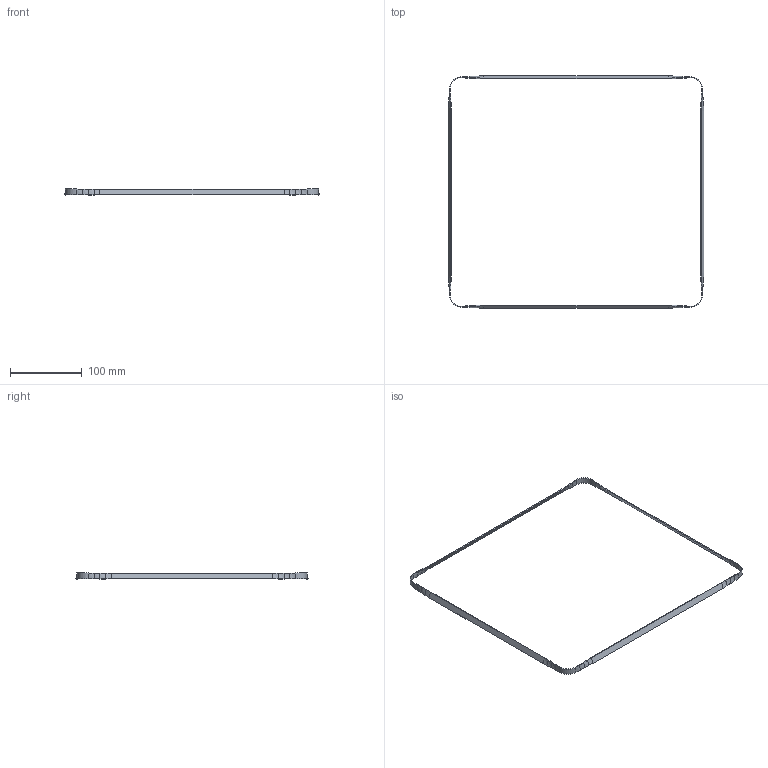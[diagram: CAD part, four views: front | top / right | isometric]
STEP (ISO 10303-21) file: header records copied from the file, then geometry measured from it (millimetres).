
FILE_DESCRIPTION(('Open CASCADE Model'),'2;1');
FILE_NAME('Open CASCADE Shape Model','2026-10-21T18:40:55',('Author'),( 'Open CASCADE'),'Open CASCADE STEP processor 8.0','build123d', 'Unknown');
FILE_SCHEMA(('AUTOMOTIVE_DESIGN { 1 0 10303 214 1 1 1 1 }'));
Length unit declared in the file: millimetre
Products named in the file (41): COMPOUND; SOLID
Assembly tree (40 placements, depth 2):
  COMPOUND
    SOLID
    SOLID
    SOLID
    SOLID
    SOLID
    SOLID
    SOLID
    SOLID
    SOLID
    SOLID
    SOLID
    SOLID
    SOLID
    SOLID
    SOLID
    SOLID
    SOLID
    SOLID
    SOLID
    SOLID
    SOLID
    SOLID
    SOLID
    SOLID
    SOLID
    SOLID
    SOLID
    SOLID
    SOLID
    SOLID
    SOLID
    SOLID
    SOLID
    SOLID
    SOLID
    SOLID
    COMPOUND
    COMPOUND
    COMPOUND
    COMPOUND
Bounding box: 355.37 x 323.37 x 8.35 mm (x, y, z)
Volume: 11836.5 mm3; surface area: 25136.4 mm2
Topology: 40 solids, 40 shells, 240 faces, 480 edges, 320 vertices
Faces by surface type: bspline 128, plane 104, cylinder 8
Entity records: 12760 total; most frequent: CARTESIAN_POINT 2657, DIRECTION 1530, LINE 1176, VECTOR 1176, ORIENTED_EDGE 960, PCURVE 960, DEFINITIONAL_REPRESENTATION 960, EDGE_CURVE 480
